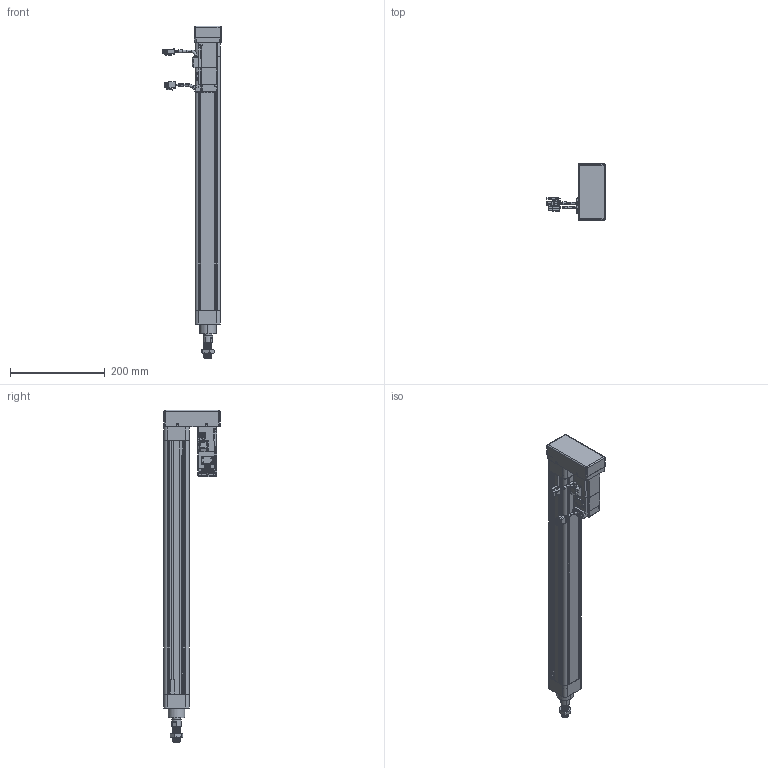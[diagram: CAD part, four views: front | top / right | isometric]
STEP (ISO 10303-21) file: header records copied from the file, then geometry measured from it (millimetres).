
FILE_DESCRIPTION (( 'STEP AP203' ), '1' );
FILE_NAME ('VEC50-10-C-450-MF-ZP10B-MS2.STEP', '2019-01-26T02:52:27', ( 'vobosh 6' ), ( 'Microsoft' ), 'SwSTEP 2.0', 'SolidWorks 2016', '' );
FILE_SCHEMA (( 'CONFIG_CONTROL_DESIGN' ));
Length unit declared in the file: millimetre
Products named in the file (12): 鞠褒蹟譫M16x1.5; VEC50-MF-200-004-X1; VEC50-MF-200-001-X1; MHMF012L1V2; VEC50-MF-200-002-X1; VEC50-MF-200-005-X1; VEC50-MF-200-003-X1; VEC50-10-C-450-MF-ZP10B-MS2; 带尾螺母M6x9x45（镀镍）; 柈ч肣薦え耳9x耳8.5x4.4; VEC50-MF-200-011-X1; CS1-M
Assembly tree (20 placements, depth 2):
  VEC50-10-C-450-MF-ZP10B-MS2
    VEC50-MF-200-001-X1
    VEC50-MF-200-002-X1
    VEC50-MF-200-003-X1
    带尾螺母M6x9x45（镀镍）  x8
    柈ч肣薦え耳9x耳8.5x4.4  x2
    VEC50-MF-200-011-X1
    CS1-M  x2
    鞠褒蹟譫M16x1.5
    VEC50-MF-200-004-X1
    MHMF012L1V2
    VEC50-MF-200-005-X1
Bounding box: 122.5 x 118 x 699 mm (x, y, z)
Volume: 1076798.4 mm3; surface area: 388983 mm2
Topology: 27 solids, 27 shells, 1970 faces, 4861 edges, 3048 vertices
Faces by surface type: plane 902, cylinder 703, cone 239, bspline 117, torus 9
Entity records: 59744 total; most frequent: CARTESIAN_POINT 16772, DIRECTION 8631, ORIENTED_EDGE 8630, EDGE_CURVE 4315, AXIS2_PLACEMENT_3D 2988, VERTEX_POINT 2755, VECTOR 2655, LINE 2655
